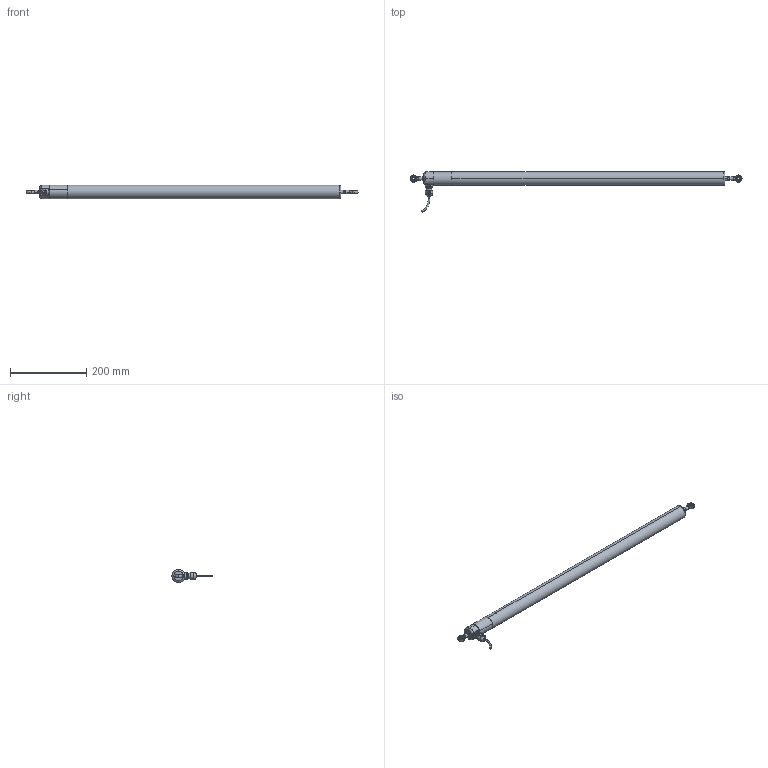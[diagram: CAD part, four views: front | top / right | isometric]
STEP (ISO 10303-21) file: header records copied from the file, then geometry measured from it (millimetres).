
FILE_DESCRIPTION (( 'STEP AP214' ), '1' );
FILE_NAME ('S114-600AI50NU.STEP', '2025-04-10T10:34:23', ( '' ), ( '' ), 'SwSTEP 2.0', 'SolidWorks 2023', '' );
FILE_SCHEMA (( 'AUTOMOTIVE_DESIGN' ));
Length unit declared in the file: millimetre
Products named in the file (1): S114-600AI50NU
Bounding box: 871 x 105.27 x 35 mm (x, y, z)
Surface area: 115237.8 mm2 (no closed solid volume)
Topology: 0 solids, 23 shells, 150 faces, 448 edges, 318 vertices
Faces by surface type: cylinder 52, plane 46, torus 20, cone 20, sphere 8, bspline 4
Entity records: 5843 total; most frequent: CARTESIAN_POINT 1860, DIRECTION 867, ORIENTED_EDGE 730, EDGE_CURVE 434, AXIS2_PLACEMENT_3D 369, VERTEX_POINT 312, CIRCLE 222, EDGE_LOOP 188
